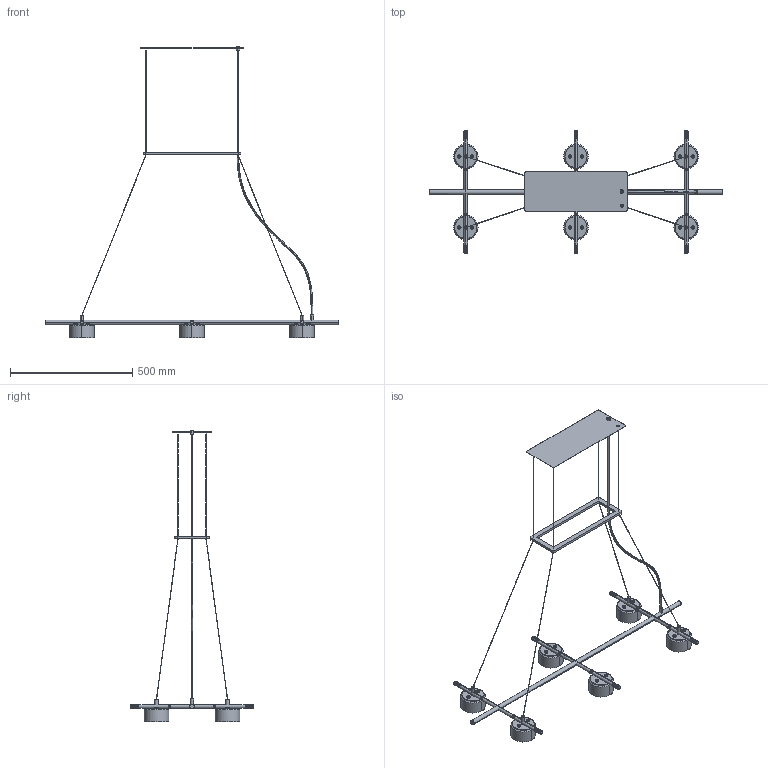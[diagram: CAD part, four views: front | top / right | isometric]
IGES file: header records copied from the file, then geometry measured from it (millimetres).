
Start section: SolidWorks IGES file using analytic representation for surfaces
Global section: file name: C:\Users\adrian\Desktop\Nueva Coleccion Septiembre 2026\HOREO\HOREO_C1367-6\HOREO_C1367_6.IGS; native system: SolidWorks 2023; preprocessor: SolidWorks 2023; author: adrian; date: 260616.104325; units: millimetre
Bounding box: 1200 x 500 x 1192.5 mm (x, y, z)
Surface area: 966926.6 mm2 (no closed solid volume)
Topology: 0 solids, 0 shells, 2978 faces, 20220 edges, 20120 vertices
Faces by surface type: bspline 2978
